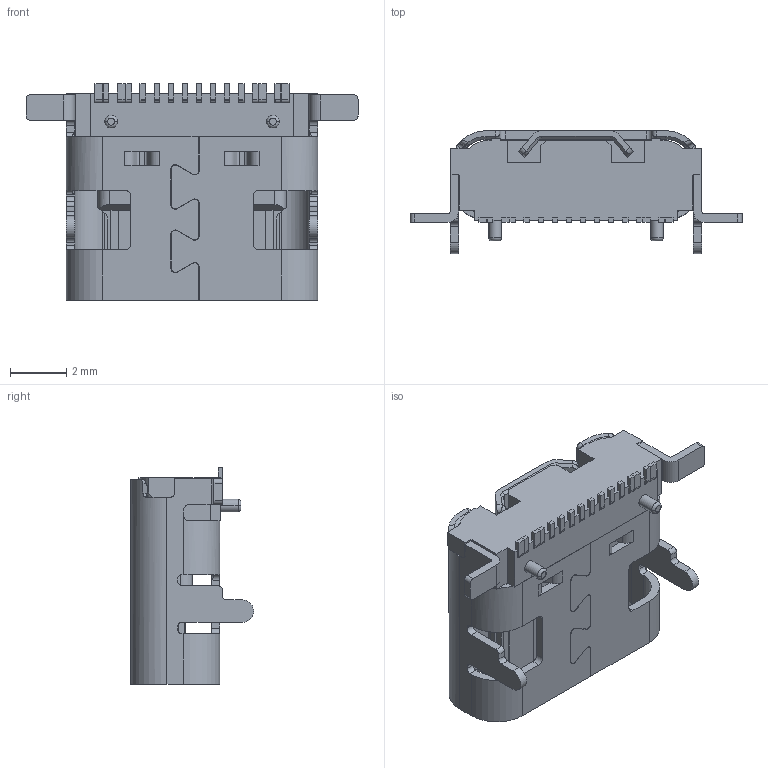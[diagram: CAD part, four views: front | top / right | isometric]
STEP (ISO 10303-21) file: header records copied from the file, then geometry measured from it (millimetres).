
FILE_DESCRIPTION((''),'2;1');
FILE_NAME('ASM0001_ASM','2024-01-27T',('WYH'),(''),'PRO/ENGINEER BY PARAMETRIC TECHNOLOGY CORPORATION, 2013040','PRO/ENGINEER BY PARAMETRIC TECHNOLOGY CORPORATION, 2013040','');
FILE_SCHEMA(('CONFIG_CONTROL_DESIGN'));
Length unit declared in the file: millimetre
Products named in the file (1): ASM0001_ASM
Bounding box: 11.8 x 4.38 x 7.7 mm (x, y, z)
Volume: 115.4 mm3; surface area: 481 mm2
Topology: 1 solids, 2 shells, 743 faces, 2167 edges, 1403 vertices
Faces by surface type: plane 521, cylinder 194, cone 18, bspline 6, torus 4
Entity records: 24993 total; most frequent: CARTESIAN_POINT 5099, ORIENTED_EDGE 4334, DIRECTION 3948, EDGE_CURVE 2167, VECTOR 1686, LINE 1686, VERTEX_POINT 1403, AXIS2_PLACEMENT_3D 1131
